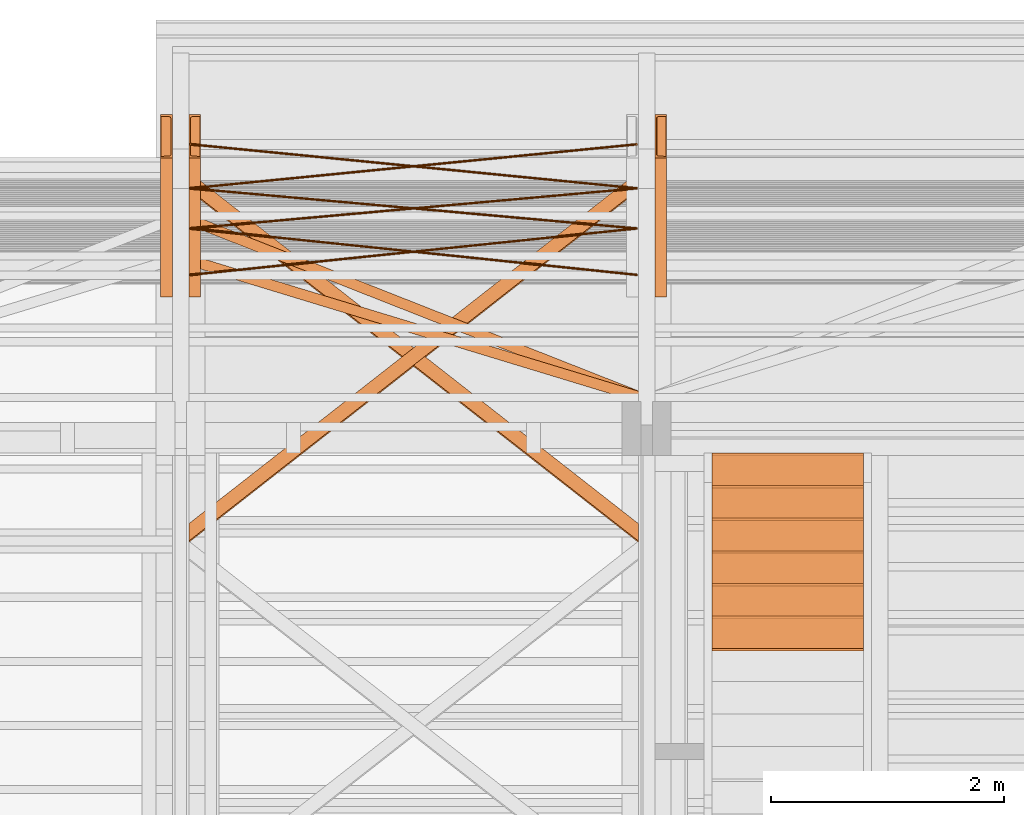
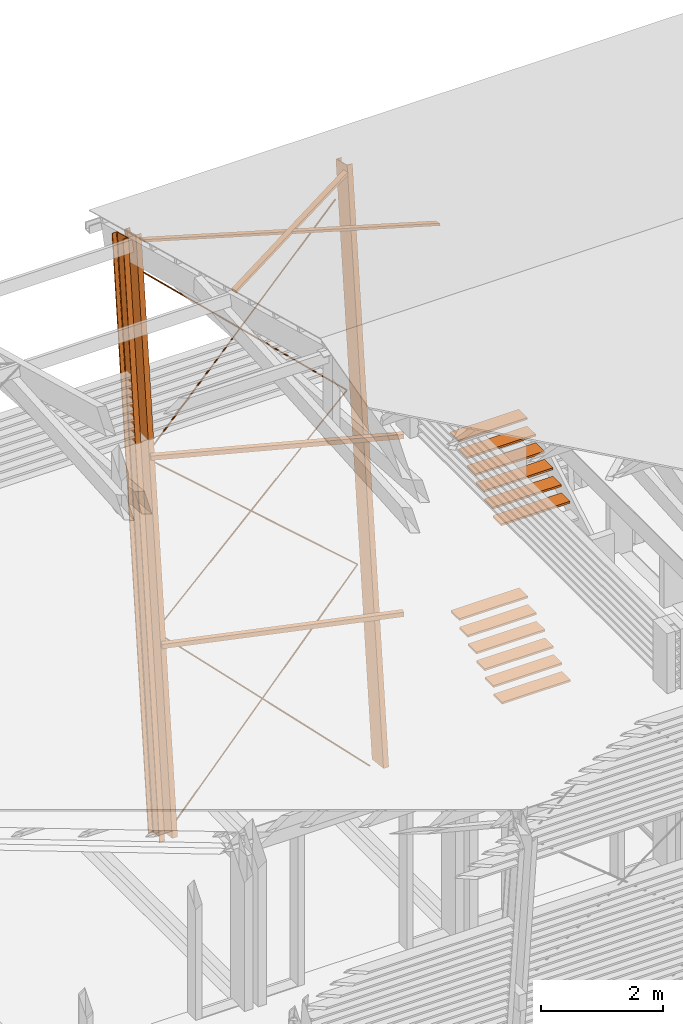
# One storey, part 41 of 48: 25 proxies.
"""IFC2X3 building model written with IfcOpenShell, lengths in metres."""

from ifc_helpers import new_model, si_unit, direction, frame, origin_with_axes, place, context, subcontext, project, spatial, faceted_brep, material, element, save


model = new_model("IFC2X3")

# Units and contexts
model_context = context("Model", 3, precision=1e-06, world=origin_with_axes(), true_north=direction((0.0, 1.0, 0.0)))
body_context = subcontext(model_context, "Body", "Model", "MODEL_VIEW")
ifc_project = project(units=[si_unit("LENGTHUNIT", "METRE"), si_unit("AREAUNIT", "SQUARE_METRE"), si_unit("VOLUMEUNIT", "CUBIC_METRE"), si_unit("PLANEANGLEUNIT", "RADIAN")], contexts=[model_context])

# Site, building, storey
site_placement = place(None, origin_with_axes())
site = spatial("IfcSite", under=ifc_project, at=site_placement, CompositionType="ELEMENT")
building_placement = place(site_placement, origin_with_axes())
building = spatial("IfcBuilding", under=site, at=building_placement, Name="Building 1", CompositionType="ELEMENT")
storey_placement = place(building_placement, origin_with_axes())
storey = spatial("IfcBuildingStorey", under=building, at=storey_placement, Name="Storey 1", CompositionType="ELEMENT", Elevation=0.0)

# Proxies
ifc_material_1 = material(Name="Moabi")
proxy_1_placement = place(storey_placement, frame((43.3497437, -185.3664881, 4.105), z_axis=(0.0, 1.0, 0.0), x_axis=(-1.0, 0.0, 0.0)))
element("IfcBuildingElementProxy", 1, at=proxy_1_placement, inside=storey, material=ifc_material_1, Name="marche", context=body_context, shape_type="Brep", body=[
    faceted_brep([(0.0, 0.02, 0.14), (0.0, 0.02, -0.14), (0.0, -0.02, -0.14), (0.0, -0.02, 0.14), (1.3, 0.02, -0.14), (1.3, -0.02, -0.14), (1.3, 0.02, 0.14), (1.3, -0.02, 0.14)], [[[0, 1, 2, 3]], [[1, 4, 5, 2]], [[4, 6, 7, 5]], [[6, 0, 3, 7]], [[1, 0, 6, 4]], [[7, 3, 2, 5]]]),
])
ifc_material_2 = material(Name="Acier")
proxy_2_placement = place(storey_placement, frame((37.5737441, -182.9349831, 7.369), z_axis=(-0.6859491, 0.0760601, 0.7236634), x_axis=(0.7276496, 0.0717012, 0.6821914)))
element("IfcBuildingElementProxy", 2, at=proxy_2_placement, inside=storey, material=ifc_material_2, Name="CVLP", context=body_context, shape_type="Brep", body=[
    faceted_brep([(5.2662712, 0.0093969, -0.0034202), (0.0, 0.01, 0.0), (5.2662712, 0.01, 0.0), (0.0, 0.0093969, 0.0034202), (5.2662712, 0.0093969, 0.0034202), (0.0, 0.0076604, 0.0064279), (5.2662712, 0.0076604, 0.0064279), (0.0, 0.005, 0.0086603), (5.2662712, 0.005, 0.0086603), (0.0, 0.0017365, 0.0098481), (5.2662712, 0.0017365, 0.0098481), (0.0, -0.0017365, 0.0098481), (5.2662712, -0.0017365, 0.0098481), (0.0, -0.005, 0.0086603), (5.2662712, -0.005, 0.0086603), (0.0, -0.0076604, 0.0064279), (5.2662712, -0.0076604, 0.0064279), (0.0, -0.0093969, 0.0034202), (5.2662712, -0.0093969, 0.0034202), (0.0, -0.01, 0.0), (5.2662712, -0.01, 0.0), (0.0, -0.0093969, -0.0034202), (5.2662712, -0.0093969, -0.0034202), (0.0, -0.0076604, -0.0064279), (5.2662712, -0.0076604, -0.0064279), (0.0, -0.005, -0.0086603), (5.2662712, -0.005, -0.0086603), (0.0, -0.0017365, -0.0098481), (5.2662712, -0.0017365, -0.0098481), (0.0, 0.0017365, -0.0098481), (5.2662712, 0.0017365, -0.0098481), (0.0, 0.005, -0.0086603), (5.2662712, 0.005, -0.0086603), (0.0, 0.0076604, -0.0064279), (5.2662712, 0.0076604, -0.0064279), (0.0, 0.0093969, -0.0034202)], [[[0, 1, 2]], [[2, 1, 3]], [[2, 3, 4]], [[4, 3, 5]], [[4, 5, 6]], [[6, 5, 7]], [[6, 7, 8]], [[8, 7, 9]], [[8, 9, 10]], [[10, 9, 11]], [[10, 11, 12]], [[12, 11, 13]], [[12, 13, 14]], [[14, 13, 15]], [[14, 15, 16]], [[16, 15, 17]], [[16, 17, 18]], [[18, 17, 19]], [[18, 19, 20]], [[20, 19, 21]], [[20, 21, 22]], [[22, 21, 23]], [[22, 23, 24]], [[24, 23, 25]], [[24, 25, 26]], [[26, 25, 27]], [[26, 27, 28]], [[28, 27, 29]], [[28, 29, 30]], [[30, 29, 31]], [[30, 31, 32]], [[32, 31, 33]], [[32, 33, 34]], [[34, 33, 35]], [[34, 35, 0]], [[0, 35, 1]], [[10, 12, 8]], [[8, 12, 14]], [[8, 14, 6]], [[6, 14, 16]], [[6, 16, 4]], [[4, 16, 18]], [[4, 18, 2]], [[2, 18, 20]], [[2, 20, 0]], [[0, 20, 22]], [[0, 22, 34]], [[34, 22, 24]], [[34, 24, 32]], [[32, 24, 26]], [[32, 26, 30]], [[30, 26, 28]], [[29, 27, 31]], [[31, 27, 25]], [[31, 25, 33]], [[33, 25, 23]], [[33, 23, 35]], [[35, 23, 21]], [[35, 21, 1]], [[1, 21, 19]], [[1, 19, 3]], [[3, 19, 17]], [[3, 17, 5]], [[5, 17, 15]], [[5, 15, 7]], [[7, 15, 13]], [[7, 13, 9]], [[9, 13, 11]]]),
])
proxy_3_placement = place(storey_placement, frame((41.4057433, -182.9349831, 7.369), z_axis=(0.6859491, 0.0760601, 0.7236634), x_axis=(-0.7276496, 0.0717012, 0.6821914)))
element("IfcBuildingElementProxy", 3, at=proxy_3_placement, inside=storey, material=ifc_material_2, Name="CVLP", context=body_context, shape_type="Brep", body=[
    faceted_brep([(5.2662712, -0.0093969, 0.0034202), (0.0, -0.01, 0.0), (5.2662712, -0.01, 0.0), (0.0, -0.0093969, -0.0034202), (5.2662712, -0.0093969, -0.0034202), (0.0, -0.0076604, -0.0064279), (5.2662712, -0.0076604, -0.0064279), (0.0, -0.005, -0.0086603), (5.2662712, -0.005, -0.0086603), (0.0, -0.0017365, -0.0098481), (5.2662712, -0.0017365, -0.0098481), (0.0, 0.0017365, -0.0098481), (5.2662712, 0.0017365, -0.0098481), (0.0, 0.005, -0.0086603), (5.2662712, 0.005, -0.0086603), (0.0, 0.0076604, -0.0064279), (5.2662712, 0.0076604, -0.0064279), (0.0, 0.0093969, -0.0034202), (5.2662712, 0.0093969, -0.0034202), (0.0, 0.01, 0.0), (5.2662712, 0.01, 0.0), (0.0, 0.0093969, 0.0034202), (5.2662712, 0.0093969, 0.0034202), (0.0, 0.0076604, 0.0064279), (5.2662712, 0.0076604, 0.0064279), (0.0, 0.005, 0.0086603), (5.2662712, 0.005, 0.0086603), (0.0, 0.0017365, 0.0098481), (5.2662712, 0.0017365, 0.0098481), (0.0, -0.0017365, 0.0098481), (5.2662712, -0.0017365, 0.0098481), (0.0, -0.005, 0.0086603), (5.2662712, -0.005, 0.0086603), (0.0, -0.0076604, 0.0064279), (5.2662712, -0.0076604, 0.0064279), (0.0, -0.0093969, 0.0034202)], [[[0, 1, 2]], [[2, 1, 3]], [[2, 3, 4]], [[4, 3, 5]], [[4, 5, 6]], [[6, 5, 7]], [[6, 7, 8]], [[8, 7, 9]], [[8, 9, 10]], [[10, 9, 11]], [[10, 11, 12]], [[12, 11, 13]], [[12, 13, 14]], [[14, 13, 15]], [[14, 15, 16]], [[16, 15, 17]], [[16, 17, 18]], [[18, 17, 19]], [[18, 19, 20]], [[20, 19, 21]], [[20, 21, 22]], [[22, 21, 23]], [[22, 23, 24]], [[24, 23, 25]], [[24, 25, 26]], [[26, 25, 27]], [[26, 27, 28]], [[28, 27, 29]], [[28, 29, 30]], [[30, 29, 31]], [[30, 31, 32]], [[32, 31, 33]], [[32, 33, 34]], [[34, 33, 35]], [[34, 35, 0]], [[0, 35, 1]], [[10, 12, 8]], [[8, 12, 14]], [[8, 14, 6]], [[6, 14, 16]], [[6, 16, 4]], [[4, 16, 18]], [[4, 18, 2]], [[2, 18, 20]], [[2, 20, 0]], [[0, 20, 22]], [[0, 22, 34]], [[34, 22, 24]], [[34, 24, 32]], [[32, 24, 26]], [[32, 26, 30]], [[30, 26, 28]], [[29, 27, 31]], [[31, 27, 25]], [[31, 25, 33]], [[33, 25, 23]], [[33, 23, 35]], [[35, 23, 21]], [[35, 21, 1]], [[1, 21, 19]], [[1, 19, 3]], [[3, 19, 17]], [[3, 17, 5]], [[5, 17, 15]], [[5, 15, 7]], [[7, 15, 13]], [[7, 13, 9]], [[9, 13, 11]]]),
])
proxy_4_placement = place(storey_placement, frame((41.4057441, -183.279725, 4.089), z_axis=(0.6523288, 0.0792259, 0.753784), x_axis=(-0.7579361, 0.0681869, 0.6487553)))
element("IfcBuildingElementProxy", 4, at=proxy_4_placement, inside=storey, material=ifc_material_2, Name="CVLP", context=body_context, shape_type="Brep", body=[
    faceted_brep([(5.0558353, 0.0093969, -0.0034202), (0.0, 0.01, 0.0), (5.0558353, 0.01, 0.0), (0.0, 0.0093969, 0.0034202), (5.0558353, 0.0093969, 0.0034202), (0.0, 0.0076604, 0.0064279), (5.0558353, 0.0076604, 0.0064279), (0.0, 0.005, 0.0086603), (5.0558353, 0.005, 0.0086603), (0.0, 0.0017365, 0.0098481), (5.0558353, 0.0017365, 0.0098481), (0.0, -0.0017365, 0.0098481), (5.0558353, -0.0017365, 0.0098481), (0.0, -0.005, 0.0086603), (5.0558353, -0.005, 0.0086603), (0.0, -0.0076604, 0.0064279), (5.0558353, -0.0076604, 0.0064279), (0.0, -0.0093969, 0.0034202), (5.0558353, -0.0093969, 0.0034202), (0.0, -0.01, 0.0), (5.0558353, -0.01, 0.0), (0.0, -0.0093969, -0.0034202), (5.0558353, -0.0093969, -0.0034202), (0.0, -0.0076604, -0.0064279), (5.0558353, -0.0076604, -0.0064279), (0.0, -0.005, -0.0086603), (5.0558353, -0.005, -0.0086603), (0.0, -0.0017365, -0.0098481), (5.0558353, -0.0017365, -0.0098481), (0.0, 0.0017365, -0.0098481), (5.0558353, 0.0017365, -0.0098481), (0.0, 0.005, -0.0086603), (5.0558353, 0.005, -0.0086603), (0.0, 0.0076604, -0.0064279), (5.0558353, 0.0076604, -0.0064279), (0.0, 0.0093969, -0.0034202)], [[[0, 1, 2]], [[2, 1, 3]], [[2, 3, 4]], [[4, 3, 5]], [[4, 5, 6]], [[6, 5, 7]], [[6, 7, 8]], [[8, 7, 9]], [[8, 9, 10]], [[10, 9, 11]], [[10, 11, 12]], [[12, 11, 13]], [[12, 13, 14]], [[14, 13, 15]], [[14, 15, 16]], [[16, 15, 17]], [[16, 17, 18]], [[18, 17, 19]], [[18, 19, 20]], [[20, 19, 21]], [[20, 21, 22]], [[22, 21, 23]], [[22, 23, 24]], [[24, 23, 25]], [[24, 25, 26]], [[26, 25, 27]], [[26, 27, 28]], [[28, 27, 29]], [[28, 29, 30]], [[30, 29, 31]], [[30, 31, 32]], [[32, 31, 33]], [[32, 33, 34]], [[34, 33, 35]], [[34, 35, 0]], [[0, 35, 1]], [[10, 12, 8]], [[8, 12, 14]], [[8, 14, 6]], [[6, 14, 16]], [[6, 16, 4]], [[4, 16, 18]], [[4, 18, 2]], [[2, 18, 20]], [[2, 20, 0]], [[0, 20, 22]], [[0, 22, 34]], [[34, 22, 24]], [[34, 24, 32]], [[32, 24, 26]], [[32, 26, 30]], [[30, 26, 28]], [[29, 27, 31]], [[31, 27, 25]], [[31, 25, 33]], [[33, 25, 23]], [[33, 23, 35]], [[35, 23, 21]], [[35, 21, 1]], [[1, 21, 19]], [[1, 19, 3]], [[3, 19, 17]], [[3, 17, 5]], [[5, 17, 15]], [[5, 15, 7]], [[7, 15, 13]], [[7, 13, 9]], [[9, 13, 11]]]),
])
proxy_5_placement = place(storey_placement, frame((43.3497437, -186.7464881, 6.84), z_axis=(0.0, 1.0, 0.0), x_axis=(-1.0, 0.0, 0.0)))
element("IfcBuildingElementProxy", 5, at=proxy_5_placement, inside=storey, material=ifc_material_1, Name="marche", context=body_context, shape_type="Brep", body=[
    faceted_brep([(0.0, 0.02, 0.14), (0.0, 0.02, -0.14), (0.0, -0.02, -0.14), (0.0, -0.02, 0.14), (1.3, 0.02, -0.14), (1.3, -0.02, -0.14), (1.3, 0.02, 0.14), (1.3, -0.02, 0.14)], [[[0, 1, 2, 3]], [[1, 4, 5, 2]], [[4, 6, 7, 5]], [[6, 0, 3, 7]], [[1, 0, 6, 4]], [[7, 3, 2, 5]]]),
])
proxy_6_placement = place(storey_placement, frame((37.5737433, -183.279725, 4.089), z_axis=(-0.6523288, 0.0792259, 0.753784), x_axis=(0.7579361, 0.0681869, 0.6487553)))
element("IfcBuildingElementProxy", 6, at=proxy_6_placement, inside=storey, material=ifc_material_2, Name="CVLP", context=body_context, shape_type="Brep", body=[
    faceted_brep([(5.0558353, -0.0093969, 0.0034202), (0.0, -0.01, 0.0), (5.0558353, -0.01, 0.0), (0.0, -0.0093969, -0.0034202), (5.0558353, -0.0093969, -0.0034202), (0.0, -0.0076604, -0.0064279), (5.0558353, -0.0076604, -0.0064279), (0.0, -0.005, -0.0086603), (5.0558353, -0.005, -0.0086603), (0.0, -0.0017365, -0.0098481), (5.0558353, -0.0017365, -0.0098481), (0.0, 0.0017365, -0.0098481), (5.0558353, 0.0017365, -0.0098481), (0.0, 0.005, -0.0086603), (5.0558353, 0.005, -0.0086603), (0.0, 0.0076604, -0.0064279), (5.0558353, 0.0076604, -0.0064279), (0.0, 0.0093969, -0.0034202), (5.0558353, 0.0093969, -0.0034202), (0.0, 0.01, 0.0), (5.0558353, 0.01, 0.0), (0.0, 0.0093969, 0.0034202), (5.0558353, 0.0093969, 0.0034202), (0.0, 0.0076604, 0.0064279), (5.0558353, 0.0076604, 0.0064279), (0.0, 0.005, 0.0086603), (5.0558353, 0.005, 0.0086603), (0.0, 0.0017365, 0.0098481), (5.0558353, 0.0017365, 0.0098481), (0.0, -0.0017365, 0.0098481), (5.0558353, -0.0017365, 0.0098481), (0.0, -0.005, 0.0086603), (5.0558353, -0.005, 0.0086603), (0.0, -0.0076604, 0.0064279), (5.0558353, -0.0076604, 0.0064279), (0.0, -0.0093969, 0.0034202)], [[[0, 1, 2]], [[2, 1, 3]], [[2, 3, 4]], [[4, 3, 5]], [[4, 5, 6]], [[6, 5, 7]], [[6, 7, 8]], [[8, 7, 9]], [[8, 9, 10]], [[10, 9, 11]], [[10, 11, 12]], [[12, 11, 13]], [[12, 13, 14]], [[14, 13, 15]], [[14, 15, 16]], [[16, 15, 17]], [[16, 17, 18]], [[18, 17, 19]], [[18, 19, 20]], [[20, 19, 21]], [[20, 21, 22]], [[22, 21, 23]], [[22, 23, 24]], [[24, 23, 25]], [[24, 25, 26]], [[26, 25, 27]], [[26, 27, 28]], [[28, 27, 29]], [[28, 29, 30]], [[30, 29, 31]], [[30, 31, 32]], [[32, 31, 33]], [[32, 33, 34]], [[34, 33, 35]], [[34, 35, 0]], [[0, 35, 1]], [[10, 12, 8]], [[8, 12, 14]], [[8, 14, 6]], [[6, 14, 16]], [[6, 16, 4]], [[4, 16, 18]], [[4, 18, 2]], [[2, 18, 20]], [[2, 20, 0]], [[0, 20, 22]], [[0, 22, 34]], [[34, 22, 24]], [[34, 24, 32]], [[32, 24, 26]], [[32, 26, 30]], [[30, 26, 28]], [[29, 27, 31]], [[31, 27, 25]], [[31, 25, 33]], [[33, 25, 23]], [[33, 23, 35]], [[35, 23, 21]], [[35, 21, 1]], [[1, 21, 19]], [[1, 19, 3]], [[3, 19, 17]], [[3, 17, 5]], [[5, 17, 15]], [[5, 15, 7]], [[7, 15, 13]], [[7, 13, 9]], [[9, 13, 11]]]),
])
proxy_7_placement = place(storey_placement, frame((37.5737441, -183.677965, 0.3), z_axis=(-0.7050562, 0.0741265, 0.7052666), x_axis=(0.7091514, 0.0736984, 0.7011938)))
element("IfcBuildingElementProxy", 7, at=proxy_7_placement, inside=storey, material=ifc_material_2, Name="CVLP", context=body_context, shape_type="Brep", body=[
    faceted_brep([(5.4036414, 0.0093969, -0.0034202), (0.0, 0.01, 0.0), (5.4036414, 0.01, 0.0), (0.0, 0.0093969, 0.0034202), (5.4036414, 0.0093969, 0.0034202), (0.0, 0.0076604, 0.0064279), (5.4036414, 0.0076604, 0.0064279), (0.0, 0.005, 0.0086603), (5.4036414, 0.005, 0.0086603), (0.0, 0.0017365, 0.0098481), (5.4036414, 0.0017365, 0.0098481), (0.0, -0.0017365, 0.0098481), (5.4036414, -0.0017365, 0.0098481), (0.0, -0.005, 0.0086603), (5.4036414, -0.005, 0.0086603), (0.0, -0.0076604, 0.0064279), (5.4036414, -0.0076604, 0.0064279), (0.0, -0.0093969, 0.0034202), (5.4036414, -0.0093969, 0.0034202), (0.0, -0.01, 0.0), (5.4036414, -0.01, 0.0), (0.0, -0.0093969, -0.0034202), (5.4036414, -0.0093969, -0.0034202), (0.0, -0.0076604, -0.0064279), (5.4036414, -0.0076604, -0.0064279), (0.0, -0.005, -0.0086603), (5.4036414, -0.005, -0.0086603), (0.0, -0.0017365, -0.0098481), (5.4036414, -0.0017365, -0.0098481), (0.0, 0.0017365, -0.0098481), (5.4036414, 0.0017365, -0.0098481), (0.0, 0.005, -0.0086603), (5.4036414, 0.005, -0.0086603), (0.0, 0.0076604, -0.0064279), (5.4036414, 0.0076604, -0.0064279), (0.0, 0.0093969, -0.0034202)], [[[0, 1, 2]], [[2, 1, 3]], [[2, 3, 4]], [[4, 3, 5]], [[4, 5, 6]], [[6, 5, 7]], [[6, 7, 8]], [[8, 7, 9]], [[8, 9, 10]], [[10, 9, 11]], [[10, 11, 12]], [[12, 11, 13]], [[12, 13, 14]], [[14, 13, 15]], [[14, 15, 16]], [[16, 15, 17]], [[16, 17, 18]], [[18, 17, 19]], [[18, 19, 20]], [[20, 19, 21]], [[20, 21, 22]], [[22, 21, 23]], [[22, 23, 24]], [[24, 23, 25]], [[24, 25, 26]], [[26, 25, 27]], [[26, 27, 28]], [[28, 27, 29]], [[28, 29, 30]], [[30, 29, 31]], [[30, 31, 32]], [[32, 31, 33]], [[32, 33, 34]], [[34, 33, 35]], [[34, 35, 0]], [[0, 35, 1]], [[10, 12, 8]], [[8, 12, 14]], [[8, 14, 6]], [[6, 14, 16]], [[6, 16, 4]], [[4, 16, 18]], [[4, 18, 2]], [[2, 18, 20]], [[2, 20, 0]], [[0, 20, 22]], [[0, 22, 34]], [[34, 22, 24]], [[34, 24, 32]], [[32, 24, 26]], [[32, 26, 30]], [[30, 26, 28]], [[29, 27, 31]], [[31, 27, 25]], [[31, 25, 33]], [[33, 25, 23]], [[33, 23, 35]], [[35, 23, 21]], [[35, 21, 1]], [[1, 21, 19]], [[1, 19, 3]], [[3, 19, 17]], [[3, 17, 5]], [[5, 17, 15]], [[5, 15, 7]], [[7, 15, 13]], [[7, 13, 9]], [[9, 13, 11]]]),
])
proxy_8_placement = place(storey_placement, frame((41.4057433, -183.677965, 0.3), z_axis=(0.7050562, 0.0741265, 0.7052666), x_axis=(-0.7091514, 0.0736984, 0.7011938)))
element("IfcBuildingElementProxy", 8, at=proxy_8_placement, inside=storey, material=ifc_material_2, Name="CVLP", context=body_context, shape_type="Brep", body=[
    faceted_brep([(5.4036414, -0.0093969, 0.0034202), (0.0, -0.01, 0.0), (5.4036414, -0.01, 0.0), (0.0, -0.0093969, -0.0034202), (5.4036414, -0.0093969, -0.0034202), (0.0, -0.0076604, -0.0064279), (5.4036414, -0.0076604, -0.0064279), (0.0, -0.005, -0.0086603), (5.4036414, -0.005, -0.0086603), (0.0, -0.0017365, -0.0098481), (5.4036414, -0.0017365, -0.0098481), (0.0, 0.0017365, -0.0098481), (5.4036414, 0.0017365, -0.0098481), (0.0, 0.005, -0.0086603), (5.4036414, 0.005, -0.0086603), (0.0, 0.0076604, -0.0064279), (5.4036414, 0.0076604, -0.0064279), (0.0, 0.0093969, -0.0034202), (5.4036414, 0.0093969, -0.0034202), (0.0, 0.01, 0.0), (5.4036414, 0.01, 0.0), (0.0, 0.0093969, 0.0034202), (5.4036414, 0.0093969, 0.0034202), (0.0, 0.0076604, 0.0064279), (5.4036414, 0.0076604, 0.0064279), (0.0, 0.005, 0.0086603), (5.4036414, 0.005, 0.0086603), (0.0, 0.0017365, 0.0098481), (5.4036414, 0.0017365, 0.0098481), (0.0, -0.0017365, 0.0098481), (5.4036414, -0.0017365, 0.0098481), (0.0, -0.005, 0.0086603), (5.4036414, -0.005, 0.0086603), (0.0, -0.0076604, 0.0064279), (5.4036414, -0.0076604, 0.0064279), (0.0, -0.0093969, 0.0034202)], [[[0, 1, 2]], [[2, 1, 3]], [[2, 3, 4]], [[4, 3, 5]], [[4, 5, 6]], [[6, 5, 7]], [[6, 7, 8]], [[8, 7, 9]], [[8, 9, 10]], [[10, 9, 11]], [[10, 11, 12]], [[12, 11, 13]], [[12, 13, 14]], [[14, 13, 15]], [[14, 15, 16]], [[16, 15, 17]], [[16, 17, 18]], [[18, 17, 19]], [[18, 19, 20]], [[20, 19, 21]], [[20, 21, 22]], [[22, 21, 23]], [[22, 23, 24]], [[24, 23, 25]], [[24, 25, 26]], [[26, 25, 27]], [[26, 27, 28]], [[28, 27, 29]], [[28, 29, 30]], [[30, 29, 31]], [[30, 31, 32]], [[32, 31, 33]], [[32, 33, 34]], [[34, 33, 35]], [[34, 35, 0]], [[0, 35, 1]], [[10, 12, 8]], [[8, 12, 14]], [[8, 14, 6]], [[6, 14, 16]], [[6, 16, 4]], [[4, 16, 18]], [[4, 18, 2]], [[2, 18, 20]], [[2, 20, 0]], [[0, 20, 22]], [[0, 22, 34]], [[34, 22, 24]], [[34, 24, 32]], [[32, 24, 26]], [[32, 26, 30]], [[30, 26, 28]], [[29, 27, 31]], [[31, 27, 25]], [[31, 25, 33]], [[33, 25, 23]], [[33, 23, 35]], [[35, 23, 21]], [[35, 21, 1]], [[1, 21, 19]], [[1, 19, 3]], [[3, 19, 17]], [[3, 17, 5]], [[5, 17, 15]], [[5, 15, 7]], [[7, 15, 13]], [[7, 13, 9]], [[9, 13, 11]]]),
])
proxy_9_placement = place(storey_placement, frame((41.6107437, -182.4859924, 11.6408612), z_axis=(0.0, -0.9945219, 0.1045285), x_axis=(0.0, -0.1045285, -0.9945219)))
element("IfcBuildingElementProxy", 9, at=proxy_9_placement, inside=storey, material=ifc_material_2, Name="Poteau", context=body_context, shape_type="Brep", body=[
    faceted_brep([(0.0588262, 0.0506328, -0.181414), (0.0592057, 0.051, -0.18381), (0.0579402, 0.0433995, -0.17582), (0.0601861, 0.051, -0.19), (0.0574199, -0.022299, -0.172535), (0.0601861, -0.051, -0.19), (0.0572658, -0.0270483, -0.1715622), (0.0568935, -0.0312883, -0.1692116), (0.0045382, -0.0367655, 0.161347), (0.0052972, -0.0375, 0.156555), (0.0, -0.051, 0.19), (0.0548889, -0.0375, -0.156555), (0.0556479, -0.0367655, -0.161347), (0.0563372, -0.0346296, -0.165699), (0.0009804, 0.051, 0.18381), (0.0022459, 0.0433995, 0.17582), (0.0, 0.051, 0.19), (0.0027662, -0.022299, 0.172535), (0.0029203, -0.0270483, 0.1715622), (0.0032926, -0.0312883, 0.1692116), (0.0013599, 0.0506328, 0.181414), (0.0017045, 0.0495648, 0.179238), (0.0019827, 0.0478941, 0.1774817), (0.0021689, 0.0457742, 0.1763064), (0.0038489, -0.0346296, 0.165699), (0.0580172, 0.0457742, -0.1763064), (0.0582034, 0.0478941, -0.1774817), (0.0584816, 0.0495648, -0.179238), (11.420672, 0.0433995, 0.17582), (11.420672, 0.0457742, 0.1763064), (11.420672, 0.0478941, 0.1774817), (11.420672, 0.0495648, 0.179238), (11.420672, 0.0506328, 0.181414), (11.420672, 0.051, 0.18381), (11.420672, 0.051, 0.19), (11.420672, -0.051, 0.19), (11.420672, -0.051, -0.19), (11.420672, 0.051, -0.19), (11.420672, 0.051, -0.18381), (11.420672, 0.0506328, -0.181414), (11.420672, 0.0495648, -0.179238), (11.420672, 0.0478941, -0.1774817), (11.420672, 0.0457742, -0.1763064), (11.420672, 0.0433995, -0.17582), (11.420672, -0.022299, -0.172535), (11.420672, -0.0270483, -0.1715622), (11.420672, -0.0312883, -0.1692116), (11.420672, -0.0346296, -0.165699), (11.420672, -0.0367655, -0.161347), (11.420672, -0.0375, -0.156555), (11.420672, -0.0375, 0.156555), (11.420672, -0.0367655, 0.161347), (11.420672, -0.0346296, 0.165699), (11.420672, -0.0312883, 0.1692116), (11.420672, -0.0270483, 0.1715622), (11.420672, -0.022299, 0.172535)], [[[0, 1, 2]], [[2, 1, 3]], [[2, 3, 4]], [[4, 3, 5]], [[4, 5, 6]], [[6, 5, 7]], [[8, 9, 10]], [[10, 9, 11]], [[10, 11, 5]], [[5, 11, 12]], [[5, 12, 13]], [[14, 15, 16]], [[16, 15, 17]], [[16, 17, 10]], [[10, 17, 18]], [[10, 18, 19]], [[14, 20, 15]], [[15, 20, 21]], [[15, 21, 22]], [[22, 23, 15]], [[19, 24, 10]], [[10, 24, 8]], [[13, 7, 5]], [[25, 26, 2]], [[2, 26, 27]], [[2, 27, 0]], [[15, 23, 28]], [[28, 23, 29]], [[23, 22, 29]], [[29, 22, 30]], [[22, 21, 30]], [[30, 21, 31]], [[21, 20, 31]], [[31, 20, 32]], [[20, 14, 32]], [[32, 14, 33]], [[16, 34, 14]], [[14, 34, 33]], [[10, 5, 35]], [[35, 5, 36]], [[5, 3, 36]], [[36, 3, 37]], [[1, 38, 3]], [[3, 38, 37]], [[1, 0, 38]], [[38, 0, 39]], [[0, 27, 39]], [[39, 27, 40]], [[27, 26, 40]], [[40, 26, 41]], [[26, 25, 41]], [[41, 25, 42]], [[25, 2, 42]], [[42, 2, 43]], [[4, 44, 2]], [[2, 44, 43]], [[4, 6, 44]], [[44, 6, 45]], [[6, 7, 45]], [[45, 7, 46]], [[7, 13, 46]], [[46, 13, 47]], [[13, 12, 47]], [[47, 12, 48]], [[12, 11, 48]], [[48, 11, 49]], [[9, 50, 11]], [[11, 50, 49]], [[9, 8, 50]], [[50, 8, 51]], [[8, 24, 51]], [[51, 24, 52]], [[24, 19, 52]], [[52, 19, 53]], [[19, 18, 53]], [[53, 18, 54]], [[18, 17, 54]], [[54, 17, 55]], [[15, 28, 17]], [[17, 28, 55]], [[35, 34, 10]], [[10, 34, 16]], [[48, 49, 36]], [[36, 49, 50]], [[36, 50, 35]], [[35, 50, 51]], [[35, 51, 52]], [[41, 42, 38]], [[38, 42, 43]], [[38, 43, 37]], [[37, 43, 44]], [[37, 44, 36]], [[36, 44, 45]], [[36, 45, 46]], [[39, 40, 38]], [[38, 40, 41]], [[46, 47, 36]], [[36, 47, 48]], [[52, 53, 35]], [[35, 53, 54]], [[35, 54, 55]], [[35, 55, 34]], [[34, 55, 28]], [[34, 28, 33]], [[33, 28, 32]], [[29, 30, 28]], [[28, 30, 31]], [[28, 31, 32]]]),
])
proxy_10_placement = place(storey_placement, frame((37.6107437, -182.4859924, 11.6408612), z_axis=(0.0, -0.9945219, 0.1045285), x_axis=(0.0, -0.1045285, -0.9945219)))
element("IfcBuildingElementProxy", 10, at=proxy_10_placement, inside=storey, material=ifc_material_2, Name="Poteau", context=body_context, shape_type="Brep", body=[
    faceted_brep([(0.0588262, 0.0506328, -0.181414), (0.0592057, 0.051, -0.18381), (0.0579402, 0.0433995, -0.17582), (0.0601861, 0.051, -0.19), (0.0574199, -0.022299, -0.172535), (0.0601861, -0.051, -0.19), (0.0572658, -0.0270483, -0.1715622), (0.0568935, -0.0312883, -0.1692116), (0.0045382, -0.0367655, 0.161347), (0.0052972, -0.0375, 0.156555), (0.0, -0.051, 0.19), (0.0548889, -0.0375, -0.156555), (0.0556479, -0.0367655, -0.161347), (0.0563372, -0.0346296, -0.165699), (0.0009804, 0.051, 0.18381), (0.0022459, 0.0433995, 0.17582), (0.0, 0.051, 0.19), (0.0027662, -0.022299, 0.172535), (0.0029203, -0.0270483, 0.1715622), (0.0032926, -0.0312883, 0.1692116), (0.0013599, 0.0506328, 0.181414), (0.0017045, 0.0495648, 0.179238), (0.0019827, 0.0478941, 0.1774817), (0.0021689, 0.0457742, 0.1763064), (0.0038489, -0.0346296, 0.165699), (0.0580172, 0.0457742, -0.1763064), (0.0582034, 0.0478941, -0.1774817), (0.0584816, 0.0495648, -0.179238), (11.420672, 0.0433995, 0.17582), (11.420672, 0.0457742, 0.1763064), (11.420672, 0.0478941, 0.1774817), (11.420672, 0.0495648, 0.179238), (11.420672, 0.0506328, 0.181414), (11.420672, 0.051, 0.18381), (11.420672, 0.051, 0.19), (11.420672, -0.051, 0.19), (11.420672, -0.051, -0.19), (11.420672, 0.051, -0.19), (11.420672, 0.051, -0.18381), (11.420672, 0.0506328, -0.181414), (11.420672, 0.0495648, -0.179238), (11.420672, 0.0478941, -0.1774817), (11.420672, 0.0457742, -0.1763064), (11.420672, 0.0433995, -0.17582), (11.420672, -0.022299, -0.172535), (11.420672, -0.0270483, -0.1715622), (11.420672, -0.0312883, -0.1692116), (11.420672, -0.0346296, -0.165699), (11.420672, -0.0367655, -0.161347), (11.420672, -0.0375, -0.156555), (11.420672, -0.0375, 0.156555), (11.420672, -0.0367655, 0.161347), (11.420672, -0.0346296, 0.165699), (11.420672, -0.0312883, 0.1692116), (11.420672, -0.0270483, 0.1715622), (11.420672, -0.022299, 0.172535)], [[[0, 1, 2]], [[2, 1, 3]], [[2, 3, 4]], [[4, 3, 5]], [[4, 5, 6]], [[6, 5, 7]], [[8, 9, 10]], [[10, 9, 11]], [[10, 11, 5]], [[5, 11, 12]], [[5, 12, 13]], [[14, 15, 16]], [[16, 15, 17]], [[16, 17, 10]], [[10, 17, 18]], [[10, 18, 19]], [[14, 20, 15]], [[15, 20, 21]], [[15, 21, 22]], [[22, 23, 15]], [[19, 24, 10]], [[10, 24, 8]], [[13, 7, 5]], [[25, 26, 2]], [[2, 26, 27]], [[2, 27, 0]], [[15, 23, 28]], [[28, 23, 29]], [[23, 22, 29]], [[29, 22, 30]], [[22, 21, 30]], [[30, 21, 31]], [[21, 20, 31]], [[31, 20, 32]], [[20, 14, 32]], [[32, 14, 33]], [[16, 34, 14]], [[14, 34, 33]], [[10, 5, 35]], [[35, 5, 36]], [[5, 3, 36]], [[36, 3, 37]], [[1, 38, 3]], [[3, 38, 37]], [[1, 0, 38]], [[38, 0, 39]], [[0, 27, 39]], [[39, 27, 40]], [[27, 26, 40]], [[40, 26, 41]], [[26, 25, 41]], [[41, 25, 42]], [[25, 2, 42]], [[42, 2, 43]], [[4, 44, 2]], [[2, 44, 43]], [[4, 6, 44]], [[44, 6, 45]], [[6, 7, 45]], [[45, 7, 46]], [[7, 13, 46]], [[46, 13, 47]], [[13, 12, 47]], [[47, 12, 48]], [[12, 11, 48]], [[48, 11, 49]], [[9, 50, 11]], [[11, 50, 49]], [[9, 8, 50]], [[50, 8, 51]], [[8, 24, 51]], [[51, 24, 52]], [[24, 19, 52]], [[52, 19, 53]], [[19, 18, 53]], [[53, 18, 54]], [[18, 17, 54]], [[54, 17, 55]], [[15, 28, 17]], [[17, 28, 55]], [[35, 34, 10]], [[10, 34, 16]], [[48, 49, 36]], [[36, 49, 50]], [[36, 50, 35]], [[35, 50, 51]], [[35, 51, 52]], [[41, 42, 38]], [[38, 42, 43]], [[38, 43, 37]], [[37, 43, 44]], [[37, 44, 36]], [[36, 44, 45]], [[36, 45, 46]], [[39, 40, 38]], [[38, 40, 41]], [[46, 47, 36]], [[36, 47, 48]], [[52, 53, 35]], [[35, 53, 54]], [[35, 54, 55]], [[35, 55, 34]], [[34, 55, 28]], [[34, 28, 33]], [[33, 28, 32]], [[29, 30, 28]], [[28, 30, 31]], [[28, 31, 32]]]),
])
proxy_11_placement = place(storey_placement, frame((37.3687437, -182.4859924, 11.6408612), z_axis=(0.0, -0.9945219, 0.1045285), x_axis=(0.0, -0.1045285, -0.9945219)))
element("IfcBuildingElementProxy", 11, at=proxy_11_placement, inside=storey, material=ifc_material_2, Name="Poteau", context=body_context, shape_type="Brep", body=[
    faceted_brep([(0.0563372, 0.0346296, -0.165699), (0.0556479, 0.0367655, -0.161347), (0.0601861, 0.051, -0.19), (0.0548889, 0.0375, -0.156555), (0.0, 0.051, 0.19), (0.0052972, 0.0375, 0.156555), (0.0045382, 0.0367655, 0.161347), (0.0592057, -0.051, -0.18381), (0.0579402, -0.0433995, -0.17582), (0.0601861, -0.051, -0.19), (0.0574199, 0.022299, -0.172535), (0.0572658, 0.0270483, -0.1715622), (0.0568935, 0.0312883, -0.1692116), (0.0588262, -0.0506328, -0.181414), (0.0584816, -0.0495648, -0.179238), (0.0582034, -0.0478941, -0.1774817), (0.0580172, -0.0457742, -0.1763064), (0.0038489, 0.0346296, 0.165699), (0.0032926, 0.0312883, 0.1692116), (0.0029203, 0.0270483, 0.1715622), (0.0027662, 0.022299, 0.172535), (0.0, -0.051, 0.19), (0.0022459, -0.0433995, 0.17582), (0.0009804, -0.051, 0.18381), (0.0021689, -0.0457742, 0.1763064), (0.0019827, -0.0478941, 0.1774817), (0.0017045, -0.0495648, 0.179238), (0.0013599, -0.0506328, 0.181414), (11.420672, 0.0375, -0.156555), (11.420672, 0.0367655, -0.161347), (11.420672, 0.0346296, -0.165699), (11.420672, 0.0312883, -0.1692116), (11.420672, 0.0270483, -0.1715622), (11.420672, 0.022299, -0.172535), (11.420672, -0.0433995, -0.17582), (11.420672, -0.0457742, -0.1763064), (11.420672, -0.0478941, -0.1774817), (11.420672, -0.0495648, -0.179238), (11.420672, -0.0506328, -0.181414), (11.420672, -0.051, -0.18381), (11.420672, -0.051, -0.19), (11.420672, 0.051, -0.19), (11.420672, 0.051, 0.19), (11.420672, -0.051, 0.19), (11.420672, -0.051, 0.18381), (11.420672, -0.0506328, 0.181414), (11.420672, -0.0495648, 0.179238), (11.420672, -0.0478941, 0.1774817), (11.420672, -0.0457742, 0.1763064), (11.420672, -0.0433995, 0.17582), (11.420672, 0.022299, 0.172535), (11.420672, 0.0270483, 0.1715622), (11.420672, 0.0312883, 0.1692116), (11.420672, 0.0346296, 0.165699), (11.420672, 0.0367655, 0.161347), (11.420672, 0.0375, 0.156555)], [[[0, 1, 2]], [[2, 1, 3]], [[2, 3, 4]], [[4, 3, 5]], [[4, 5, 6]], [[7, 8, 9]], [[9, 8, 10]], [[9, 10, 2]], [[2, 10, 11]], [[2, 11, 12]], [[7, 13, 8]], [[8, 13, 14]], [[8, 14, 15]], [[15, 16, 8]], [[12, 0, 2]], [[6, 17, 4]], [[4, 17, 18]], [[4, 18, 19]], [[19, 20, 4]], [[4, 20, 21]], [[20, 22, 21]], [[21, 22, 23]], [[24, 25, 22]], [[22, 25, 26]], [[22, 26, 27]], [[27, 23, 22]], [[3, 1, 28]], [[28, 1, 29]], [[1, 0, 29]], [[29, 0, 30]], [[0, 12, 30]], [[30, 12, 31]], [[12, 11, 31]], [[31, 11, 32]], [[11, 10, 32]], [[32, 10, 33]], [[10, 8, 33]], [[33, 8, 34]], [[8, 16, 34]], [[34, 16, 35]], [[16, 15, 35]], [[35, 15, 36]], [[15, 14, 36]], [[36, 14, 37]], [[14, 13, 37]], [[37, 13, 38]], [[13, 7, 38]], [[38, 7, 39]], [[7, 9, 39]], [[39, 9, 40]], [[9, 2, 40]], [[40, 2, 41]], [[4, 42, 2]], [[2, 42, 41]], [[43, 42, 21]], [[21, 42, 4]], [[21, 23, 43]], [[43, 23, 44]], [[23, 27, 44]], [[44, 27, 45]], [[27, 26, 45]], [[45, 26, 46]], [[26, 25, 46]], [[46, 25, 47]], [[25, 24, 47]], [[47, 24, 48]], [[24, 22, 48]], [[48, 22, 49]], [[22, 20, 49]], [[49, 20, 50]], [[20, 19, 50]], [[50, 19, 51]], [[19, 18, 51]], [[51, 18, 52]], [[18, 17, 52]], [[52, 17, 53]], [[17, 6, 53]], [[53, 6, 54]], [[6, 5, 54]], [[54, 5, 55]], [[5, 3, 55]], [[55, 3, 28]], [[53, 54, 42]], [[42, 54, 55]], [[42, 55, 41]], [[41, 55, 28]], [[41, 28, 29]], [[44, 49, 43]], [[43, 49, 50]], [[43, 50, 42]], [[42, 50, 51]], [[42, 51, 52]], [[44, 45, 49]], [[49, 45, 46]], [[49, 46, 47]], [[47, 48, 49]], [[52, 53, 42]], [[29, 30, 41]], [[41, 30, 31]], [[41, 31, 32]], [[32, 33, 41]], [[41, 33, 40]], [[33, 34, 40]], [[40, 34, 39]], [[34, 35, 39]], [[39, 35, 36]], [[39, 36, 37]], [[37, 38, 39]]]),
])
for number, where, z_axis, x_axis, name in (
    (12, (43.3497437, -186.4664881, 7.005), (0.0, 1.0, 0.0), (-1.0, 0.0, 0.0), "marche"),
    (13, (43.3497437, -185.9064881, 7.335), (0.0, 1.0, 0.0), (-1.0, 0.0, 0.0), "marche"),
    (14, (43.3497437, -185.3464881, 7.665), (0.0, 1.0, 0.0), (-1.0, 0.0, 0.0), "marche"),
    (15, (43.3497437, -185.6264881, 7.5), (0.0, 1.0, 0.0), (-1.0, 0.0, 0.0), "marche"),
    (16, (43.3497437, -186.1864881, 7.17), (0.0, 1.0, 0.0), (-1.0, 0.0, 0.0), "marche"),
    (17, (43.3497437, -186.4864881, 3.445), (0.0, 1.0, 0.0), (-1.0, 0.0, 0.0), "marche"),
):
    element("IfcBuildingElementProxy", number, at=place(storey_placement, frame(where, z_axis=z_axis, x_axis=x_axis)), inside=storey, material=ifc_material_1, Name=name, context=body_context, shape_type="Brep", body=[
        faceted_brep([(0.0, 0.02, 0.14), (0.0, 0.02, -0.14), (0.0, -0.02, -0.14), (0.0, -0.02, 0.14), (1.3, 0.02, -0.14), (1.3, -0.02, -0.14), (1.3, 0.02, 0.14), (1.3, -0.02, 0.14)], [[[0, 1, 2, 3]], [[1, 4, 5, 2]], [[4, 6, 7, 5]], [[6, 0, 3, 7]], [[1, 0, 6, 4]], [[7, 3, 2, 5]]]),
    ])
ifc_material_3 = material(Name="GL28h")
proxy_12_placement = place(storey_placement, frame((41.4575102, -182.8443274, 11.682812), z_axis=(0.6294478, -0.7505657, 0.2011135), x_axis=(-0.7770428, -0.6079999, 0.1629131)))
element("IfcBuildingElementProxy", 18, at=proxy_12_placement, inside=storey, material=ifc_material_3, Name="CVT", context=body_context, shape_type="Brep", body=[
    faceted_brep([(4.9675515, 0.0225, -0.06), (5.0647581, 0.0225, 0.06), (5.0647581, -0.0225, 0.06), (4.9675515, -0.0225, -0.06), (0.0, 0.0225, -0.06), (0.0972067, 0.0225, 0.06), (0.0, -0.0225, -0.06), (0.0972067, -0.0225, 0.06)], [[[0, 1, 2, 3]], [[1, 0, 4, 5]], [[6, 7, 5, 4]], [[5, 7, 2, 1]], [[3, 2, 7, 6]], [[0, 3, 6, 4]]]),
])
for number, where, z_axis, x_axis, name in (
    (19, (43.3497437, -185.6464881, 3.94), (0.0, 1.0, 0.0), (-1.0, 0.0, 0.0), "marche"),
    (20, (43.3497437, -185.9264881, 3.775), (0.0, 1.0, 0.0), (-1.0, 0.0, 0.0), "marche"),
    (21, (43.3497437, -186.7664881, 3.28), (0.0, 1.0, 0.0), (-1.0, 0.0, 0.0), "marche"),
    (22, (43.3497437, -186.2064881, 3.61), (0.0, 1.0, 0.0), (-1.0, 0.0, 0.0), "marche"),
):
    element("IfcBuildingElementProxy", number, at=place(storey_placement, frame(where, z_axis=z_axis, x_axis=x_axis)), inside=storey, material=ifc_material_1, Name=name, context=body_context, shape_type="Brep", body=[
        faceted_brep([(0.0, 0.02, 0.14), (0.0, 0.02, -0.14), (0.0, -0.02, -0.14), (0.0, -0.02, 0.14), (1.3, 0.02, -0.14), (1.3, -0.02, -0.14), (1.3, 0.02, 0.14), (1.3, -0.02, 0.14)], [[[0, 1, 2, 3]], [[1, 4, 5, 2]], [[4, 6, 7, 5]], [[6, 0, 3, 7]], [[1, 0, 6, 4]], [[7, 3, 2, 5]]]),
    ])
proxy_13_placement = place(storey_placement, frame((37.5219768, -182.8443274, 11.682812), z_axis=(-0.6294478, -0.7505657, 0.2011135), x_axis=(0.7770428, -0.6079999, 0.1629131)))
element("IfcBuildingElementProxy", 23, at=proxy_13_placement, inside=storey, material=ifc_material_3, Name="CVT", context=body_context, shape_type="Brep", body=[
    faceted_brep([(5.0647581, -0.0225, 0.06), (4.9675515, -0.0225, -0.06), (4.9675515, 0.0225, -0.06), (5.0647581, 0.0225, 0.06), (0.0972067, -0.0225, 0.06), (0.0, -0.0225, -0.06), (0.0972067, 0.0225, 0.06), (0.0, 0.0225, -0.06)], [[[0, 1, 2, 3]], [[1, 0, 4, 5]], [[6, 7, 5, 4]], [[6, 4, 0, 3]], [[3, 2, 7, 6]], [[2, 1, 5, 7]]]),
])
proxy_14_placement = place(storey_placement, frame((41.4417411, -184.7306656, 7.544), z_axis=(-0.3666108, -0.9303744, 0.0), x_axis=(-0.9303744, 0.3666108, 0.0)))
element("IfcBuildingElementProxy", 24, at=proxy_14_placement, inside=storey, material=ifc_material_3, Name="CVLP", context=body_context, shape_type="Brep", body=[
    faceted_brep([(4.196153, -0.045, -0.045), (4.196153, -0.045, 0.045), (0.0, -0.045, 0.045), (0.0, -0.045, -0.045), (4.196153, 0.045, 0.045), (0.0, 0.045, 0.045), (4.196153, 0.045, -0.045), (0.0, 0.045, -0.045)], [[[0, 1, 2, 3]], [[1, 4, 5, 2]], [[4, 6, 7, 5]], [[6, 0, 3, 7]], [[1, 0, 6, 4]], [[7, 3, 2, 5]]]),
])
proxy_15_placement = place(storey_placement, frame((41.4372017, -184.7290801, 3.984), z_axis=(-0.2909669, -0.9567331, 0.0), x_axis=(-0.9567331, 0.2909669, 0.0)))
element("IfcBuildingElementProxy", 25, at=proxy_15_placement, inside=storey, material=ifc_material_3, Name="CVLP", context=body_context, shape_type="Brep", body=[
    faceted_brep([(4.071058, -0.045, -0.045), (4.071058, -0.045, 0.045), (0.0, -0.045, 0.045), (0.0, -0.045, -0.045), (4.071058, 0.045, 0.045), (0.0, 0.045, 0.045), (4.071058, 0.045, -0.045), (0.0, 0.045, -0.045)], [[[0, 1, 2, 3]], [[1, 4, 5, 2]], [[4, 6, 7, 5]], [[6, 0, 3, 7]], [[1, 0, 6, 4]], [[7, 3, 2, 5]]]),
])

save(model, "model.ifc")
